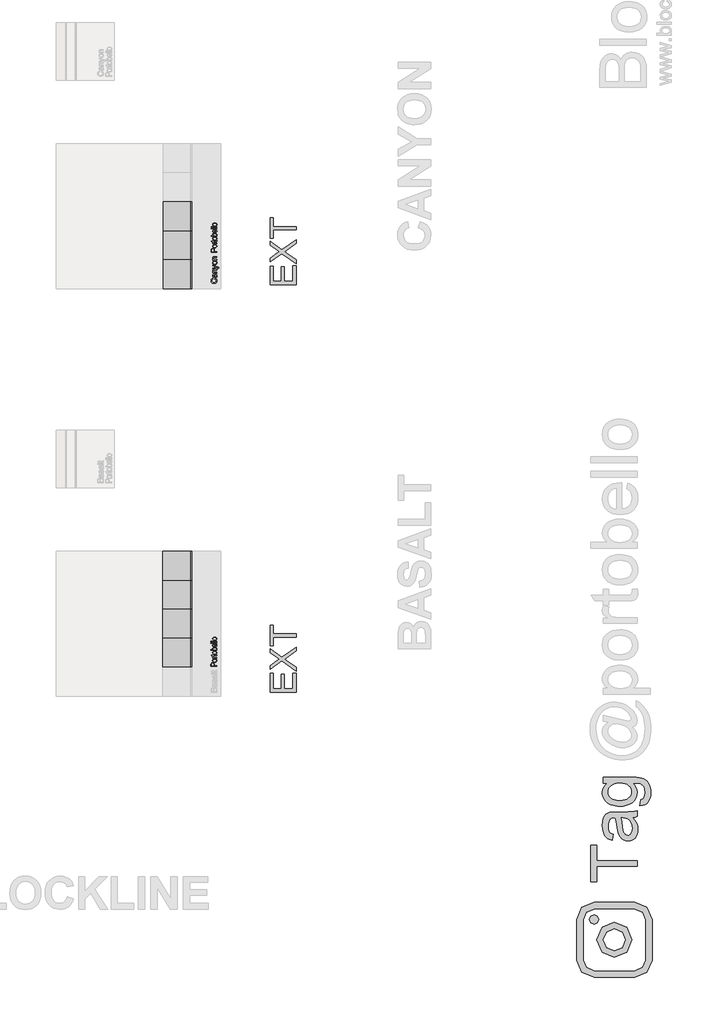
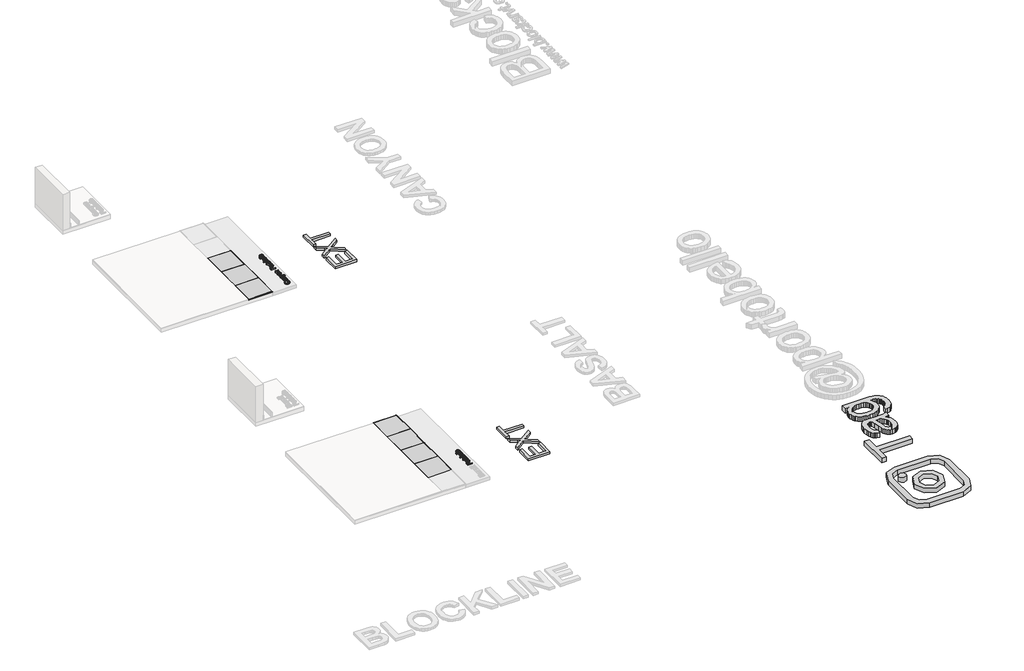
# One storey, part 4 of 6: 15 proxies.
"""IFC4 building model written with IfcOpenShell, lengths in millimetres."""

from ifc_helpers import new_model, si_unit, frame, origin, origin_with_axes, place, context, project, spatial, polyline, outline, extrude, transform, mapped, element, save
from components import generic_models_d67f6705, basalt_b67e728c, basalt_00bb0c9c, canyon_243530b5

model = new_model("IFC4")

# Units and contexts
model_context = context("Model", 3, world=origin())
ifc_project = project(units=[si_unit("LENGTHUNIT", "METRE", prefix="MILLI")], contexts=[model_context])

# Site, building, storey
site = spatial("IfcSite", under=ifc_project)
building = spatial("IfcBuilding", under=site)
storey = spatial("IfcBuildingStorey", under=building, Name="PORTOBELLO - SHOWROOM", Elevation=0.0)

# Proxies
placement = place(None, origin())
generic_models_shape = generic_models_d67f6705(model_context)
element("IfcBuildingElementProxy", 1, Name="Blks_Instagram1 : Único", ObjectType="Blks_Instagram1 : Único", at=placement, inside=storey, context=model_context, shape_type="MappedRepresentation", body=[
    mapped(generic_models_shape, transform((3838.5235049, -12631.2406298, 0.0), x_axis=(-1.0, 0.0, 0.0), y_axis=(0.0, -1.0, 0.0), z_axis=(0.0, 0.0, 1.0))),
])
element("IfcBuildingElementProxy", 2, Name="10mm Arial", ObjectType="10mm Arial", at=placement, inside=storey, context=model_context, shape_type="SweptSolid", body=[
    extrude(outline(polyline([(-3056.0663909, -1228.1118177), (-3052.8290294, -1215.5547789), (-3038.196523, -1221.3489203), (-3027.5064854, -1230.441737), (-3020.9673829, -1242.3856391), (-3018.7876821, -1256.7330369), (-3020.4370197, -1271.2980982), (-3025.3850326, -1282.8649213), (-3033.4600423, -1291.7308774), (-3044.4903708, -1298.1933377), (-3071.3457565, -1303.4540503), (-3085.9935913, -1301.9671939), (-3098.6426005, -1297.5066247), (-3108.8911798, -1290.3053346), (-3116.3377245, -1280.5963156), (-3120.8718701, -1269.0816092), (-3122.3832519, -1256.4632568), (-3120.427346, -1242.6952731), (-3114.5596282, -1231.312391), (-3105.1418491, -1222.6702298), (-3092.5357594, -1217.1244087), (-3089.5436525, -1229.6814475), (-3104.9824336, -1239.9821434), (-3109.8262132, -1256.9537661), (-3104.455136, -1276.5986646), (-3090.0341618, -1287.6964381), (-3071.3702819, -1290.8970115), (-3049.7388206, -1287.1078269), (-3035.9187203, -1275.3110776), (-3031.3447209, -1257.9838357), (-3032.902088, -1247.5022645), (-3037.5741893, -1238.7681328), (-3045.311974, -1232.173848), (-3056.0663909, -1228.1118177)])), frame((0.0, 0.0, -17.1171569), z_axis=(0.0, 0.0, 1.0), x_axis=(1.0, 0.0, 0.0)), (0.0, 0.0, 1.0), 20.0),
    extrude(outline(polyline([(-3029.775091, -1152.769585), (-3021.2647542, -1164.9464791), (-3018.7876821, -1178.3986974), (-3020.2776042, -1188.8925313), (-3024.7473704, -1196.6333816), (-3031.5347932, -1201.4066505), (-3039.977685, -1202.9977401), (-3049.9104989, -1200.5942444), (-3057.120986, -1194.2789368), (-3061.2412643, -1185.4865571), (-3063.1297253, -1174.6217756), (-3067.4462073, -1152.8431614), (-3070.2421105, -1152.769585), (-3079.5127368, -1156.2276758), (-3083.1425058, -1170.1090897), (-3080.7267474, -1182.8132813), (-3072.1550969, -1188.8710715), (-3073.7247267, -1201.4281103), (-3085.9874599, -1195.9957195), (-3093.1734215, -1185.0573615), (-3095.6995446, -1168.490409), (-3093.4677271, -1153.2723571), (-3087.8636581, -1144.6761811), (-3079.3410585, -1140.8256829), (-3068.3536496, -1140.2125463), (-3052.7309275, -1140.2125463), (-3030.9155252, -1139.5748842), (-3020.357312, -1137.0732866), (-3020.357312, -1149.6303254), (-3029.775091, -1152.769585)]), holes=[polyline([(-3054.8891686, -1152.769585), (-3051.0386703, -1173.0276202), (-3049.0030566, -1183.8310882), (-3045.6921187, -1188.7239187), (-3040.8606018, -1190.4407013), (-3034.0670476, -1186.7005677), (-3031.3447209, -1175.7254215), (-3034.3490905, -1163.02123), (-3041.6208913, -1154.8297242), (-3051.3329759, -1152.8431614), (-3054.8891686, -1152.769585)])]), frame((0.0, 0.0, -17.1171569), z_axis=(0.0, 0.0, 1.0), x_axis=(1.0, 0.0, 0.0)), (0.0, 0.0, 1.0), 20.0),
    extrude(outline(polyline([(-3020.357312, -1122.946618), (-3094.1299147, -1122.946618), (-3094.1299147, -1110.3895792), (-3083.8292189, -1110.3895792), (-3092.7319631, -1100.7878591), (-3095.6995446, -1087.6789974), (-3093.3083116, -1075.8209344), (-3087.0297922, -1067.7275305), (-3077.7959541, -1063.9628714), (-3065.6558483, -1063.3006838), (-3020.357312, -1063.3006838), (-3020.357312, -1075.8577226), (-3063.9635911, -1075.8577226), (-3075.0736274, -1077.3047251), (-3080.9474766, -1082.4182848), (-3083.1425058, -1091.0389863), (-3078.2128871, -1104.6628828), (-3071.069845, -1108.9579051), (-3059.4999562, -1110.3895792), (-3020.357312, -1110.3895792), (-3020.357312, -1122.946618)])), frame((0.0, 0.0, -17.1171569), z_axis=(0.0, 0.0, 1.0), x_axis=(1.0, 0.0, 0.0)), (0.0, 0.0, 1.0), 20.0),
    extrude(outline(polyline([(-2992.1039747, -1046.0347555), (-3004.1950296, -1047.6043854), (-3003.0913836, -1041.2277641), (-3004.4770725, -1035.2680758), (-3008.3398334, -1031.6137813), (-3017.5859343, -1028.180216), (-3020.6270921, -1027.1991974), (-3094.1299147, -1053.8829047), (-3094.1299147, -1040.6636784), (-3053.1478605, -1026.4879588), (-3036.7648489, -1021.5583401), (-3051.2593995, -1016.6287214), (-3094.1299147, -1002.0851198), (-3094.1299147, -988.9639953), (-3018.5914784, -1014.6421586), (-3002.2084669, -1021.3130854), (-2993.3547735, -1028.5971489), (-2990.5343449, -1038.3582845), (-2992.1039747, -1046.0347555)])), frame((0.0, 0.0, -17.1171569), z_axis=(0.0, 0.0, 1.0), x_axis=(1.0, 0.0, 0.0)), (0.0, 0.0, 1.0), 20.0),
    extrude(outline(polyline([(-3057.2436133, -981.6799318), (-3075.0307078, -978.9637364), (-3087.5325643, -970.8151502), (-3093.6577995, -960.7474463), (-3095.6995446, -948.6931796), (-3093.2132754, -935.5015444), (-3085.754468, -924.9647909), (-3073.9117334, -918.0578064), (-3058.2736829, -915.7554783), (-3035.9309831, -919.8267057), (-3023.2881052, -931.6847687), (-3018.7876821, -948.6931796), (-3021.2647542, -962.0442303), (-3028.6959705, -972.5687211), (-3040.7870254, -979.4021291), (-3057.2436133, -981.6799318)]), holes=[polyline([(-3057.2681388, -969.1228931), (-3045.9036508, -967.6697592), (-3037.8071813, -963.3103575), (-3032.960336, -956.7497953), (-3031.3447209, -948.6931796), (-3032.969533, -940.6733521), (-3037.8439695, -934.1250526), (-3046.0477379, -929.7656509), (-3057.6605463, -928.3125171), (-3068.6939404, -929.774848), (-3076.6800454, -934.1618408), (-3081.5268907, -940.7193373), (-3083.1425058, -948.6931796), (-3081.5330221, -956.7497953), (-3076.7045709, -963.3103575), (-3068.6264954, -967.6697592), (-3057.2681388, -969.1228931)])]), frame((0.0, 0.0, -17.1171569), z_axis=(0.0, 0.0, 1.0), x_axis=(1.0, 0.0, 0.0)), (0.0, 0.0, 1.0), 20.0),
    extrude(outline(polyline([(-3020.357312, -901.6288097), (-3094.1299147, -901.6288097), (-3094.1299147, -889.0717709), (-3083.8292189, -889.0717709), (-3092.7319631, -879.4700508), (-3095.6995446, -866.3611891), (-3093.3083116, -854.5031261), (-3087.0297922, -846.4097222), (-3077.7959541, -842.6450631), (-3065.6558483, -841.9828755), (-3020.357312, -841.9828755), (-3020.357312, -854.5399143), (-3063.9635911, -854.5399143), (-3075.0736274, -855.9869168), (-3080.9474766, -861.1004765), (-3083.1425058, -869.721178), (-3078.2128871, -883.3450745), (-3071.069845, -887.6400968), (-3059.4999562, -889.0717709), (-3020.357312, -889.0717709), (-3020.357312, -901.6288097)])), frame((0.0, 0.0, -17.1171569), z_axis=(0.0, 0.0, 1.0), x_axis=(1.0, 0.0, 0.0)), (0.0, 0.0, 1.0), 20.0),
])
element("IfcBuildingElementProxy", 3, Name="10mm Arial Narrow", ObjectType="10mm Arial Narrow", at=placement, inside=storey, context=model_context, shape_type="SweptSolid", body=[
    extrude(outline(polyline([(-3022.357312, -7911.6199743), (-3123.0759157, -7911.6199743), (-3123.0759157, -7880.3230896), (-3121.197595, -7864.0273881), (-3111.7171518, -7852.554402), (-3094.698043, -7848.2647236), (-3082.6222174, -7850.051032), (-3072.9958237, -7855.4099572), (-3066.6945653, -7865.153746), (-3064.5941458, -7880.0946452), (-3064.5941458, -7901.8730127), (-3022.357312, -7901.8730127), (-3022.357312, -7911.6199743)]), holes=[polyline([(-3075.965601, -7901.8730127), (-3075.965601, -7878.9016577), (-3080.4964153, -7863.0374623), (-3094.165006, -7858.0116852), (-3104.3307824, -7860.4864997), (-3110.1307323, -7866.4641285), (-3111.7044604, -7879.1301021), (-3111.7044604, -7901.8730127), (-3075.965601, -7901.8730127)])]), frame((0.0, 0.0, -17.1171569), z_axis=(0.0, 0.0, 1.0), x_axis=(1.0, 0.0, 0.0)), (0.0, 0.0, 1.0), 20.0),
    extrude(outline(polyline([(-3058.9084182, -7840.1422555), (-3075.4991937, -7838.1877867), (-3087.4512785, -7832.32438), (-3094.6758331, -7823.4658133), (-3097.084018, -7812.5258642), (-3094.6758331, -7801.7128286), (-3087.4512785, -7792.8288792), (-3075.689564, -7786.8893244), (-3059.6698995, -7784.9094728), (-3042.5080129, -7786.8544232), (-3030.3655578, -7792.6892742), (-3023.1410032, -7801.5383224), (-3020.7328183, -7812.5258642), (-3023.1473489, -7823.3864923), (-3030.3909405, -7832.2609233), (-3042.349371, -7838.1719225), (-3058.9084182, -7840.1422555)]), holes=[polyline([(-3058.9338009, -7830.3952939), (-3046.3820495, -7829.091257), (-3037.5107914, -7825.1791464), (-3032.2375328, -7819.3379497), (-3030.47978, -7812.2466543), (-3032.253397, -7805.5265812), (-3037.5742482, -7799.8345079), (-3046.4613704, -7795.9509528), (-3058.9338009, -7794.6564345), (-3071.4474782, -7795.9604713), (-3080.3060449, -7799.8725819), (-3085.5793035, -7805.7137787), (-3087.3370563, -7812.805074), (-3085.5697849, -7819.5727398), (-3080.2679708, -7825.2552946), (-3071.3998856, -7829.110294), (-3058.9338009, -7830.3952939)])]), frame((0.0, 0.0, -17.1171569), z_axis=(0.0, 0.0, 1.0), x_axis=(1.0, 0.0, 0.0)), (0.0, 0.0, 1.0), 20.0),
    extrude(outline(polyline([(-3030.47978, -7713.431754), (-3020.7328183, -7711.8072604), (-3020.7328183, -7719.1682471), (-3022.8522748, -7727.4430114), (-3028.6522247, -7731.7580726), (-3043.2980499, -7732.9256773), (-3085.7125627, -7732.9256773), (-3085.7125627, -7741.0481454), (-3088.9615499, -7741.0481454), (-3084.0880691, -7742.672639), (-3085.7125627, -7750.2366874), (-3083.3900445, -7756.315847), (-3076.9047614, -7760.1867107), (-3061.4974548, -7762.1665623), (-3022.357312, -7762.1665623), (-3022.357312, -7771.913524), (-3095.4595244, -7771.913524), (-3095.4595244, -7762.1665623), (-3085.7633281, -7762.1665623), (-3094.8503392, -7755.922415), (-3097.084018, -7749.5259714), (-3095.4595244, -7741.0481454), (-3095.4595244, -7732.9256773), (-3111.7044604, -7732.9256773), (-3119.8269285, -7723.1787157), (-3095.4595244, -7723.1787157), (-3095.4595244, -7713.431754), (-3085.7125627, -7713.431754), (-3085.7125627, -7723.1787157), (-3041.0643712, -7723.1787157), (-3033.0688167, -7722.3157035), (-3030.47978, -7717.6960498), (-3030.47978, -7713.431754)])), frame((0.0, 0.0, -17.1171569), z_axis=(0.0, 0.0, 1.0), x_axis=(1.0, 0.0, 0.0)), (0.0, 0.0, 1.0), 20.0),
    extrude(outline(polyline([(-3058.9084182, -7706.9337796), (-3075.4991937, -7704.9793107), (-3087.4512785, -7699.1159041), (-3094.6758331, -7690.2573374), (-3097.084018, -7679.3173882), (-3094.6758331, -7668.5043527), (-3087.4512785, -7659.6204032), (-3075.689564, -7653.6808485), (-3059.6698995, -7651.7009969), (-3042.5080129, -7653.6459472), (-3030.3655578, -7659.4807983), (-3023.1410032, -7668.3298465), (-3020.7328183, -7679.3173882), (-3023.1473489, -7690.1780164), (-3030.3909405, -7699.0524473), (-3042.349371, -7704.9634465), (-3058.9084182, -7706.9337796)]), holes=[polyline([(-3058.9338009, -7697.1868179), (-3046.3820495, -7695.8827811), (-3037.5107914, -7691.9706705), (-3032.2375328, -7686.1294737), (-3030.47978, -7679.0381784), (-3032.253397, -7672.3181052), (-3037.5742482, -7666.6260319), (-3046.4613704, -7662.7424769), (-3058.9338009, -7661.4479585), (-3071.4474782, -7662.7519954), (-3080.3060449, -7666.664106), (-3085.5793035, -7672.5053027), (-3087.3370563, -7679.5965981), (-3085.5697849, -7686.3642638), (-3080.2679708, -7692.0468186), (-3071.3998856, -7695.9018181), (-3058.9338009, -7697.1868179)])]), frame((0.0, 0.0, -17.1171569), z_axis=(0.0, 0.0, 1.0), x_axis=(1.0, 0.0, 0.0)), (0.0, 0.0, 1.0), 20.0),
    extrude(outline(polyline([(-3022.357312, -7628.9580864), (-3022.357312, -7638.705048), (-3123.0759157, -7638.705048), (-3123.0759157, -7628.9580864), (-3087.6670316, -7628.9580864), (-3094.7488084, -7621.5590256), (-3097.084018, -7612.3577923), (-3092.883179, -7599.4760656), (-3080.1537486, -7590.1986842), (-3059.4668378, -7586.7212525), (-3043.0124944, -7588.6535115), (-3030.8097553, -7594.4502885), (-3023.2520526, -7602.8234109), (-3020.7328183, -7612.4847059), (-3023.3472377, -7621.8255441), (-3031.1143478, -7628.9580864), (-3022.357312, -7628.9580864)]), holes=[polyline([(-3059.4668378, -7628.9580864), (-3042.2192846, -7626.8767039), (-3033.4876314, -7620.9879146), (-3030.47978, -7612.5354713), (-3032.2692612, -7606.5927437), (-3037.637705, -7601.3543864), (-3059.0607144, -7596.4682142), (-3080.4964153, -7601.1767074), (-3085.626896, -7606.4214104), (-3087.3370563, -7612.738533), (-3085.5475751, -7618.7161618), (-3080.1791313, -7624.0084574), (-3059.4668378, -7628.9580864)])]), frame((0.0, 0.0, -17.1171569), z_axis=(0.0, 0.0, 1.0), x_axis=(1.0, 0.0, 0.0)), (0.0, 0.0, 1.0), 20.0),
    extrude(outline(polyline([(-3045.1002225, -7534.737457), (-3043.4757289, -7524.9904954), (-3033.5891623, -7528.6900258), (-3026.4693114, -7534.5090126), (-3022.1669416, -7542.2126659), (-3020.7328183, -7551.5661955), (-3023.1473489, -7563.1597495), (-3030.3909405, -7572.3038718), (-3042.1970747, -7578.2434265), (-3058.299233, -7580.2232781), (-3074.9661567, -7578.233908), (-3087.146686, -7572.2657977), (-3094.599685, -7563.2517619), (-3097.084018, -7552.1246152), (-3094.6853516, -7541.441666), (-3087.4893526, -7532.6941487), (-3075.749848, -7526.8592976), (-3059.720665, -7524.9143473), (-3056.4716777, -7524.9904954), (-3056.4716777, -7570.4763164), (-3037.0285199, -7564.4733049), (-3032.116965, -7558.5432687), (-3030.47978, -7551.439282), (-3034.1348906, -7541.2608142), (-3045.1002225, -7534.737457)]), holes=[polyline([(-3066.2186394, -7569.8163659), (-3066.2186394, -7534.737457), (-3080.4837239, -7539.0017528), (-3085.6237232, -7544.8270853), (-3087.3370563, -7552.0484671), (-3081.625946, -7564.2575518), (-3066.2186394, -7569.8163659)])]), frame((0.0, 0.0, -17.1171569), z_axis=(0.0, 0.0, 1.0), x_axis=(1.0, 0.0, 0.0)), (0.0, 0.0, 1.0), 20.0),
    extrude(outline(polyline([(-3022.357312, -7511.9945465), (-3123.0759157, -7511.9945465), (-3123.0759157, -7502.2475849), (-3022.357312, -7502.2475849), (-3022.357312, -7511.9945465)])), frame((0.0, 0.0, -17.1171569), z_axis=(0.0, 0.0, 1.0), x_axis=(1.0, 0.0, 0.0)), (0.0, 0.0, 1.0), 20.0),
    extrude(outline(polyline([(-3022.357312, -7486.0026488), (-3123.0759157, -7486.0026488), (-3123.0759157, -7476.2556871), (-3022.357312, -7476.2556871), (-3022.357312, -7486.0026488)])), frame((0.0, 0.0, -17.1171569), z_axis=(0.0, 0.0, 1.0), x_axis=(1.0, 0.0, 0.0)), (0.0, 0.0, 1.0), 20.0),
    extrude(outline(polyline([(-3058.9084182, -7464.8842319), (-3075.4991937, -7462.929763), (-3087.4512785, -7457.0663564), (-3094.6758331, -7448.2077897), (-3097.084018, -7437.2678405), (-3094.6758331, -7426.4548049), (-3087.4512785, -7417.5708555), (-3075.689564, -7411.6313007), (-3059.6698995, -7409.6514492), (-3042.5080129, -7411.5963995), (-3030.3655578, -7417.4312506), (-3023.1410032, -7426.2802988), (-3020.7328183, -7437.2678405), (-3023.1473489, -7448.1284687), (-3030.3909405, -7457.0028996), (-3042.349371, -7462.9138988), (-3058.9084182, -7464.8842319)]), holes=[polyline([(-3058.9338009, -7455.1372702), (-3046.3820495, -7453.8332334), (-3037.5107914, -7449.9211228), (-3032.2375328, -7444.079926), (-3030.47978, -7436.9886307), (-3032.253397, -7430.2685575), (-3037.5742482, -7424.5764842), (-3046.4613704, -7420.6929292), (-3058.9338009, -7419.3984108), (-3071.4474782, -7420.7024477), (-3080.3060449, -7424.6145583), (-3085.5793035, -7430.455755), (-3087.3370563, -7437.5470504), (-3085.5697849, -7444.3147161), (-3080.2679708, -7449.9972709), (-3071.3998856, -7453.8522704), (-3058.9338009, -7455.1372702)])]), frame((0.0, 0.0, -17.1171569), z_axis=(0.0, 0.0, 1.0), x_axis=(1.0, 0.0, 0.0)), (0.0, 0.0, 1.0), 20.0),
])
element("IfcBuildingElementProxy", 4, Name="10mm Arial Narrow", ObjectType="10mm Arial Narrow", at=placement, inside=storey, context=model_context, shape_type="SweptSolid", body=[
    extrude(outline(polyline([(-3020.357312, -763.026365), (-3121.0759157, -763.026365), (-3121.0759157, -731.7294803), (-3119.197595, -715.4337788), (-3109.7171518, -703.9607927), (-3092.698043, -699.6711143), (-3080.6222174, -701.4574227), (-3070.9958237, -706.8163479), (-3064.6945653, -716.5601367), (-3062.5941458, -731.5010359), (-3062.5941458, -753.2794033), (-3020.357312, -753.2794033), (-3020.357312, -763.026365)]), holes=[polyline([(-3073.965601, -753.2794033), (-3073.965601, -730.3080484), (-3078.4964153, -714.443853), (-3092.165006, -709.4180759), (-3102.3307824, -711.8928904), (-3108.1307323, -717.8705192), (-3109.7044604, -730.5364928), (-3109.7044604, -753.2794033), (-3073.965601, -753.2794033)])]), frame((0.0, 0.0, -17.1171569), z_axis=(0.0, 0.0, 1.0), x_axis=(1.0, 0.0, 0.0)), (0.0, 0.0, 1.0), 20.0),
    extrude(outline(polyline([(-3056.9084182, -691.5486462), (-3073.4991937, -689.5941773), (-3085.4512785, -683.7307707), (-3092.6758331, -674.872204), (-3095.084018, -663.9322549), (-3092.6758331, -653.1192193), (-3085.4512785, -644.2352699), (-3073.689564, -638.2957151), (-3057.6698995, -636.3158635), (-3040.5080129, -638.2608139), (-3028.3655578, -644.0956649), (-3021.1410032, -652.9447131), (-3018.7328183, -663.9322549), (-3021.1473489, -674.792883), (-3028.3909405, -683.6673139), (-3040.349371, -689.5783131), (-3056.9084182, -691.5486462)]), holes=[polyline([(-3056.9338009, -681.8016846), (-3044.3820495, -680.4976477), (-3035.5107914, -676.5855371), (-3030.2375328, -670.7443404), (-3028.47978, -663.653045), (-3030.253397, -656.9329718), (-3035.5742482, -651.2408985), (-3044.4613704, -647.3573435), (-3056.9338009, -646.0628252), (-3069.4474782, -647.366862), (-3078.3060449, -651.2789726), (-3083.5793035, -657.1201694), (-3085.3370563, -664.2114647), (-3083.5697849, -670.9791305), (-3078.2679708, -676.6616852), (-3069.3998856, -680.5166847), (-3056.9338009, -681.8016846)])]), frame((0.0, 0.0, -17.1171569), z_axis=(0.0, 0.0, 1.0), x_axis=(1.0, 0.0, 0.0)), (0.0, 0.0, 1.0), 20.0),
    extrude(outline(polyline([(-3028.47978, -564.8381447), (-3018.7328183, -563.2136511), (-3018.7328183, -570.5746378), (-3020.8522748, -578.8494021), (-3026.6522247, -583.1644632), (-3041.2980499, -584.332068), (-3083.7125627, -584.332068), (-3083.7125627, -592.4545361), (-3086.9615499, -592.4545361), (-3082.0880691, -594.0790297), (-3083.7125627, -601.643078), (-3081.3900445, -607.7222377), (-3074.9047614, -611.5931014), (-3059.4974548, -613.572953), (-3020.357312, -613.572953), (-3020.357312, -623.3199146), (-3093.4595244, -623.3199146), (-3093.4595244, -613.572953), (-3083.7633281, -613.572953), (-3092.8503392, -607.3288057), (-3095.084018, -600.9323621), (-3093.4595244, -592.4545361), (-3093.4595244, -584.332068), (-3109.7044604, -584.332068), (-3117.8269285, -574.5851064), (-3093.4595244, -574.5851064), (-3093.4595244, -564.8381447), (-3083.7125627, -564.8381447), (-3083.7125627, -574.5851064), (-3039.0643712, -574.5851064), (-3031.0688167, -573.7220941), (-3028.47978, -569.1024404), (-3028.47978, -564.8381447)])), frame((0.0, 0.0, -17.1171569), z_axis=(0.0, 0.0, 1.0), x_axis=(1.0, 0.0, 0.0)), (0.0, 0.0, 1.0), 20.0),
    extrude(outline(polyline([(-3056.9084182, -558.3401703), (-3073.4991937, -556.3857014), (-3085.4512785, -550.5222948), (-3092.6758331, -541.6637281), (-3095.084018, -530.7237789), (-3092.6758331, -519.9107433), (-3085.4512785, -511.0267939), (-3073.689564, -505.0872392), (-3057.6698995, -503.1073876), (-3040.5080129, -505.0523379), (-3028.3655578, -510.887189), (-3021.1410032, -519.7362372), (-3018.7328183, -530.7237789), (-3021.1473489, -541.5844071), (-3028.3909405, -550.458838), (-3040.349371, -556.3698372), (-3056.9084182, -558.3401703)]), holes=[polyline([(-3056.9338009, -548.5932086), (-3044.3820495, -547.2891718), (-3035.5107914, -543.3770612), (-3030.2375328, -537.5358644), (-3028.47978, -530.4445691), (-3030.253397, -523.7244959), (-3035.5742482, -518.0324226), (-3044.4613704, -514.1488676), (-3056.9338009, -512.8543492), (-3069.4474782, -514.1583861), (-3078.3060449, -518.0704967), (-3083.5793035, -523.9116934), (-3085.3370563, -531.0029888), (-3083.5697849, -537.7706545), (-3078.2679708, -543.4532093), (-3069.3998856, -547.3082088), (-3056.9338009, -548.5932086)])]), frame((0.0, 0.0, -17.1171569), z_axis=(0.0, 0.0, 1.0), x_axis=(1.0, 0.0, 0.0)), (0.0, 0.0, 1.0), 20.0),
    extrude(outline(polyline([(-3020.357312, -480.3644771), (-3020.357312, -490.1114387), (-3121.0759157, -490.1114387), (-3121.0759157, -480.3644771), (-3085.6670316, -480.3644771), (-3092.7488084, -472.9654163), (-3095.084018, -463.764183), (-3090.883179, -450.8824563), (-3078.1537486, -441.6050749), (-3057.4668378, -438.1276432), (-3041.0124944, -440.0599022), (-3028.8097553, -445.8566792), (-3021.2520526, -454.2298015), (-3018.7328183, -463.8910965), (-3021.3472377, -473.2319348), (-3029.1143478, -480.3644771), (-3020.357312, -480.3644771)]), holes=[polyline([(-3057.4668378, -480.3644771), (-3040.2192846, -478.2830946), (-3031.4876314, -472.3943053), (-3028.47978, -463.941862), (-3030.2692612, -457.9991344), (-3035.637705, -452.7607771), (-3057.0607144, -447.8746049), (-3078.4964153, -452.5830981), (-3083.626896, -457.8278011), (-3085.3370563, -464.1449237), (-3083.5475751, -470.1225525), (-3078.1791313, -475.4148481), (-3057.4668378, -480.3644771)])]), frame((0.0, 0.0, -17.1171569), z_axis=(0.0, 0.0, 1.0), x_axis=(1.0, 0.0, 0.0)), (0.0, 0.0, 1.0), 20.0),
    extrude(outline(polyline([(-3043.1002225, -386.1438477), (-3041.4757289, -376.3968861), (-3031.5891623, -380.0964164), (-3024.4693114, -385.9154033), (-3020.1669416, -393.6190566), (-3018.7328183, -402.9725862), (-3021.1473489, -414.5661402), (-3028.3909405, -423.7102624), (-3040.1970747, -429.6498172), (-3056.299233, -431.6296688), (-3072.9661567, -429.6402987), (-3085.146686, -423.6721884), (-3092.599685, -414.6581525), (-3095.084018, -403.5310059), (-3092.6853516, -392.8480567), (-3085.4893526, -384.1005394), (-3073.749848, -378.2656883), (-3057.720665, -376.3207379), (-3054.4716777, -376.3968861), (-3054.4716777, -421.8827071), (-3035.0285199, -415.8796956), (-3030.116965, -409.9496594), (-3028.47978, -402.8456727), (-3032.1348906, -392.6672049), (-3043.1002225, -386.1438477)]), holes=[polyline([(-3064.2186394, -421.2227566), (-3064.2186394, -386.1438477), (-3078.4837239, -390.4081435), (-3083.6237232, -396.233476), (-3085.3370563, -403.4548578), (-3079.625946, -415.6639425), (-3064.2186394, -421.2227566)])]), frame((0.0, 0.0, -17.1171569), z_axis=(0.0, 0.0, 1.0), x_axis=(1.0, 0.0, 0.0)), (0.0, 0.0, 1.0), 20.0),
    extrude(outline(polyline([(-3020.357312, -363.4009372), (-3121.0759157, -363.4009372), (-3121.0759157, -353.6539756), (-3020.357312, -353.6539756), (-3020.357312, -363.4009372)])), frame((0.0, 0.0, -17.1171569), z_axis=(0.0, 0.0, 1.0), x_axis=(1.0, 0.0, 0.0)), (0.0, 0.0, 1.0), 20.0),
    extrude(outline(polyline([(-3020.357312, -337.4090395), (-3121.0759157, -337.4090395), (-3121.0759157, -327.6620778), (-3020.357312, -327.6620778), (-3020.357312, -337.4090395)])), frame((0.0, 0.0, -17.1171569), z_axis=(0.0, 0.0, 1.0), x_axis=(1.0, 0.0, 0.0)), (0.0, 0.0, 1.0), 20.0),
    extrude(outline(polyline([(-3056.9084182, -316.2906226), (-3073.4991937, -314.3361537), (-3085.4512785, -308.4727471), (-3092.6758331, -299.6141803), (-3095.084018, -288.6742312), (-3092.6758331, -277.8611956), (-3085.4512785, -268.9772462), (-3073.689564, -263.0376914), (-3057.6698995, -261.0578398), (-3040.5080129, -263.0027902), (-3028.3655578, -268.8376413), (-3021.1410032, -277.6866895), (-3018.7328183, -288.6742312), (-3021.1473489, -299.5348594), (-3028.3909405, -308.4092903), (-3040.349371, -314.3202895), (-3056.9084182, -316.2906226)]), holes=[polyline([(-3056.9338009, -306.5436609), (-3044.3820495, -305.239624), (-3035.5107914, -301.3275134), (-3030.2375328, -295.4863167), (-3028.47978, -288.3950214), (-3030.253397, -281.6749482), (-3035.5742482, -275.9828749), (-3044.4613704, -272.0993198), (-3056.9338009, -270.8048015), (-3069.4474782, -272.1088384), (-3078.3060449, -276.0209489), (-3083.5793035, -281.8621457), (-3085.3370563, -288.953441), (-3083.5697849, -295.7211068), (-3078.2679708, -301.4036616), (-3069.3998856, -305.2586611), (-3056.9338009, -306.5436609)])]), frame((0.0, 0.0, -17.1171569), z_axis=(0.0, 0.0, 1.0), x_axis=(1.0, 0.0, 0.0)), (0.0, 0.0, 1.0), 20.0),
])
element("IfcBuildingElementProxy", 5, Name="450mm Arial", ObjectType="450mm Arial", at=placement, inside=storey, context=model_context, shape_type="SweptSolid", body=[
    extrude(outline(polyline([(-1653.3270329, -8358.4815435), (-2102.9831757, -8358.4815435), (-2102.9831757, -8035.2911909), (-2046.7761579, -8035.2911909), (-2046.7761579, -8302.2745257), (-1913.2844905, -8302.2745257), (-1913.2844905, -8049.3429453), (-1857.0774726, -8049.3429453), (-1857.0774726, -8302.2745257), (-1709.5340508, -8302.2745257), (-1709.5340508, -8028.2653136), (-1653.3270329, -8028.2653136), (-1653.3270329, -8358.4815435)])), origin_with_axes(), (0.0, 0.0, 1.0), 50.0),
    extrude(outline(polyline([(-1653.3270329, -7993.1359275), (-1898.3545014, -7819.904142), (-2102.9831757, -7965.0324186), (-2102.9831757, -7897.7376882), (-1987.7148774, -7815.952086), (-1942.8151307, -7788.3974738), (-1988.7028914, -7756.1223502), (-2102.9831757, -7675.2149828), (-2102.9831757, -7606.7126797), (-1897.586046, -7751.9507356), (-1653.3270329, -7578.6091708), (-1653.3270329, -7646.0136805), (-1816.1297819, -7761.6113168), (-1849.8320367, -7785.6529905), (-1812.8364019, -7811.8902508), (-1653.3270329, -7924.6336245), (-1653.3270329, -7993.1359275)])), origin_with_axes(), (0.0, 0.0, 1.0), 50.0),
    extrude(outline(polyline([(-1653.3270329, -7409.9881173), (-2046.7761579, -7409.9881173), (-2046.7761579, -7557.5315391), (-2102.9831757, -7557.5315391), (-2102.9831757, -7206.2376775), (-2046.7761579, -7206.2376775), (-2046.7761579, -7353.7810994), (-1653.3270329, -7353.7810994), (-1653.3270329, -7409.9881173)])), origin_with_axes(), (0.0, 0.0, 1.0), 50.0),
])
element("IfcBuildingElementProxy", 6, Name="450mm Arial", ObjectType="450mm Arial", at=placement, inside=storey, context=model_context, shape_type="SweptSolid", body=[
    extrude(outline(polyline([(-1653.3270329, -1326.4815435), (-2102.9831757, -1326.4815435), (-2102.9831757, -1003.2911909), (-2046.7761579, -1003.2911909), (-2046.7761579, -1270.2745257), (-1913.2844905, -1270.2745257), (-1913.2844905, -1017.3429453), (-1857.0774726, -1017.3429453), (-1857.0774726, -1270.2745257), (-1709.5340508, -1270.2745257), (-1709.5340508, -996.2653136), (-1653.3270329, -996.2653136), (-1653.3270329, -1326.4815435)])), origin_with_axes(), (0.0, 0.0, 1.0), 50.0),
    extrude(outline(polyline([(-1653.3270329, -961.1359275), (-1898.3545014, -787.904142), (-2102.9831757, -933.0324186), (-2102.9831757, -865.7376882), (-1987.7148774, -783.952086), (-1942.8151307, -756.3974738), (-1988.7028914, -724.1223502), (-2102.9831757, -643.2149828), (-2102.9831757, -574.7126797), (-1897.586046, -719.9507356), (-1653.3270329, -546.6091708), (-1653.3270329, -614.0136805), (-1816.1297819, -729.6113168), (-1849.8320367, -753.6529905), (-1812.8364019, -779.8902508), (-1653.3270329, -892.6336245), (-1653.3270329, -961.1359275)])), origin_with_axes(), (0.0, 0.0, 1.0), 50.0),
    extrude(outline(polyline([(-1653.3270329, -377.9881173), (-2046.7761579, -377.9881173), (-2046.7761579, -525.5315391), (-2102.9831757, -525.5315391), (-2102.9831757, -174.2376775), (-2046.7761579, -174.2376775), (-2046.7761579, -321.7810994), (-1653.3270329, -321.7810994), (-1653.3270329, -377.9881173)])), origin_with_axes(), (0.0, 0.0, 1.0), 50.0),
])
element("IfcBuildingElementProxy", 7, Name="80mm Arial", ObjectType="80mm Arial", at=placement, inside=storey, context=model_context, shape_type="SweptSolid", body=[
    extrude(outline(polyline([(4230.2364896, -11363.1133966), (3530.7713786, -11363.1133966), (3530.7713786, -11625.4128133), (3430.8477913, -11625.4128133), (3430.8477913, -11000.8903927), (3530.7713786, -11000.8903927), (3530.7713786, -11263.1898093), (4230.2364896, -11263.1898093), (4230.2364896, -11363.1133966)])), origin_with_axes(), (0.0, 0.0, 1.0), 100.0),
    extrude(outline(polyline([(4155.2937991, -10526.2533531), (4196.2292922, -10573.9951647), (4211.3910377, -10598.3966706), (4223.0154491, -10623.1519099), (4237.7990658, -10674.8457774), (4242.726938, -10730.198956), (4239.7628961, -10774.6900796), (4230.8707702, -10813.7044344), (4216.0505604, -10847.2420202), (4195.3022667, -10875.3028372), (4169.9432411, -10897.4599656), (4141.2908355, -10913.286486), (4109.3450499, -10922.7823982), (4074.1058845, -10925.9477022), (4032.6824833, -10921.1662025), (3995.0647656, -10906.8217031), (3962.8628283, -10884.6950689), (3937.6867682, -10856.5671646), (3918.6583507, -10823.511388), (3904.8993411, -10786.6011371), (3889.8717704, -10700.1438145), (3874.0635466, -10597.9758498), (3855.5230373, -10526.8388428), (3833.274426, -10526.2533531), (3809.0497868, -10527.9732293), (3788.6796219, -10533.1328579), (3772.1639313, -10541.7322388), (3759.5027151, -10553.7713722), (3746.8658942, -10574.5806544), (3737.8395936, -10599.9274824), (3732.4238133, -10629.811856), (3730.6185531, -10664.2337754), (3735.4244483, -10723.7585686), (3741.4318173, -10746.7878328), (3749.8421339, -10765.3283422), (3761.3140741, -10780.5632739), (3776.5063138, -10793.6758052), (3795.4188531, -10804.6659361), (3818.051692, -10813.5336665), (3805.5612436, -10913.4572538), (3750.9155318, -10896.1121194), (3727.9838492, -10884.237655), (3707.9796154, -10870.2285925), (3690.5003062, -10853.4811456), (3675.1433975, -10833.3915279), (3661.9088892, -10809.9597394), (3650.7967813, -10783.1857802), (3635.7204197, -10721.7825406), (3630.6949658, -10651.3530004), (3635.1349299, -10583.8021183), (3648.4548222, -10530.2541998), (3668.4834514, -10489.8798011), (3693.0496263, -10461.8494784), (3723.4219081, -10443.2601783), (3760.8688579, -10431.2088472), (3795.4127543, -10427.5495361), (3848.3019968, -10426.3297658), (3972.6209911, -10426.3297658), (4080.912203, -10425.0612046), (4146.2187077, -10421.2555211), (4189.1302287, -10413.7417357), (4230.2364896, -10401.3488689), (4230.2364896, -10501.2724562), (4195.49743, -10517.2758433), (4155.2937991, -10526.2533531)]), holes=[polyline([(3955.4466245, -10526.2533531), (3972.0842922, -10593.3895133), (3986.0872558, -10687.4582029), (3993.7474136, -10739.2984429), (4002.2858061, -10773.4276173), (4013.3613209, -10795.7982056), (4028.6328457, -10812.362687), (4046.929401, -10822.608758), (4067.0800072, -10826.0241149), (4082.6076838, -10824.1639652), (4096.793613, -10818.5835158), (4109.6377948, -10809.2827669), (4121.1402293, -10796.2617183), (4130.6178449, -10779.6423473), (4137.3875704, -10759.5466307), (4142.8033507, -10708.9261611), (4136.826476, -10655.2562656), (4129.3553826, -10630.7632769), (4118.8958518, -10607.8315943), (4092.475626, -10569.3844327), (4061.0299463, -10542.6470666), (4028.6328457, -10530.7908988), (3983.7452967, -10526.8388428), (3955.4466245, -10526.2533531)])]), origin_with_axes(), (0.0, 0.0, 1.0), 100.0),
    extrude(outline(polyline([(4280.1982832, -10313.9157301), (4292.6887317, -10213.9921428), (4309.5215625, -10209.7717374), (4323.9148527, -10202.9654188), (4335.8686021, -10193.5731871), (4345.3828109, -10181.5950422), (4355.1165783, -10162.2128913), (4362.0692693, -10139.5861513), (4367.6314221, -10084.5989038), (4366.0579184, -10053.3971781), (4361.3374071, -10025.9523452), (4353.4698883, -10002.264405), (4342.455362, -9982.3333574), (4328.5987708, -9965.7444806), (4312.2050573, -9952.0830526), (4293.2742214, -9941.3490735), (4271.8062632, -9933.5425433), (4228.821556, -9928.1267629), (4155.2937991, -9926.7118293), (4188.0812262, -9959.9627691), (4211.500817, -9997.0681832), (4225.5525714, -10038.0280717), (4230.2364896, -10082.8424345), (4224.7841161, -10137.6284198), (4208.4269957, -10185.8642384), (4196.1591554, -10207.5258352), (4181.1651283, -10227.5498902), (4142.998514, -10262.6853753), (4097.2083349, -10290.5632267), (4047.0757734, -10310.4759777), (3992.6008295, -10322.4236283), (3933.7835031, -10326.4061785), (3892.6345502, -10324.6192149), (3853.107892, -10319.2583242), (3815.2035282, -10310.3235064), (3778.9214591, -10297.8147614), (3745.4692572, -10281.9211537), (3716.0544951, -10262.8317477), (3690.6771729, -10240.5465434), (3669.3372906, -10215.0655407), (3652.4312735, -10186.7973628), (3640.355547, -10156.1506326), (3633.1101111, -10123.1253503), (3630.6949658, -10087.7215159), (3636.159537, -10040.9921136), (3652.5532506, -9998.5806985), (3679.8761065, -9960.4872704), (3718.1281047, -9926.7118293), (3643.1854143, -9926.7118293), (3643.1854143, -9826.788242), (4150.0243912, -9826.788242), (4213.5317346, -9828.4959205), (4267.0491588, -9833.618956), (4310.5766639, -9842.1573485), (4344.1142497, -9854.1110979), (4371.1626573, -9869.7668504), (4395.2226275, -9889.4112519), (4416.2941603, -9913.0443025), (4434.3772558, -9940.6660021), (4448.892523, -9971.9958036), (4459.260571, -10006.7531598), (4465.4813998, -10044.9380707), (4467.5550094, -10086.5505363), (4464.6336594, -10135.5060194), (4455.8696094, -10179.5214326), (4441.2628595, -10218.5967759), (4420.8134095, -10252.7320492), (4394.4968641, -10280.304958), (4362.288828, -10299.6932078), (4324.189301, -10310.8967984), (4280.1982832, -10313.9157301)]), holes=[polyline([(3926.9527891, -10226.4825912), (3976.3595872, -10223.817393), (4018.6063334, -10215.8217983), (4053.6930276, -10202.4958072), (4081.6196698, -10183.8394197), (4102.922959, -10161.1577899), (4118.1395942, -10135.7560724), (4127.2695753, -10107.6342669), (4130.3129023, -10076.7923735), (4127.2878718, -10046.2554227), (4118.2127804, -10018.267792), (4103.087628, -9992.8294813), (4081.9124147, -9969.9404906), (4054.2602208, -9951.0279513), (4019.7041267, -9937.5189946), (3978.2441324, -9929.4136206), (3929.880238, -9926.7118293), (3883.5350634, -9929.4929057), (3843.2521475, -9937.8361349), (3809.0314903, -9951.7415169), (3780.8730917, -9971.2090518), (3758.8867311, -9994.5920494), (3743.1821878, -10020.24382), (3733.7594618, -10048.1643633), (3730.6185531, -10078.3536796), (3733.710671, -10108.0367911), (3742.9870245, -10135.4145367), (3758.4476137, -10160.4869163), (3780.0924386, -10183.2539299), (3807.8239176, -10202.1664692), (3841.544469, -10215.6754259), (3881.2540928, -10223.7807999), (3926.9527891, -10226.4825912)])]), origin_with_axes(), (0.0, 0.0, 1.0), 100.0),
])
basalt_shape = basalt_b67e728c(model_context)
element("IfcBuildingElementProxy", 8, Name="BORDA BLOCKLINE STEP BASALT 50X50 EXT BOLD : BASALT", ObjectType="BORDA BLOCKLINE STEP BASALT 50X50 EXT BOLD : BASALT", at=placement, inside=storey, context=model_context, shape_type="MappedRepresentation", body=[
    mapped(basalt_shape, transform((-3700.9370573, -7676.608239, 16.0), x_axis=(-1.0, 0.0, 0.0), y_axis=(0.0, -1.0, 0.0), z_axis=(0.0, 0.0, 1.0))),
])
element("IfcBuildingElementProxy", 9, Name="BORDA BLOCKLINE STEP BASALT 50X50 EXT BOLD : BASALT", ObjectType="BORDA BLOCKLINE STEP BASALT 50X50 EXT BOLD : BASALT", at=placement, inside=storey, context=model_context, shape_type="MappedRepresentation", body=[
    mapped(basalt_shape, transform((-3700.9370573, -6176.608239, 16.0), x_axis=(-1.0, 0.0, 0.0), y_axis=(0.0, -1.0, 0.0), z_axis=(0.0, 0.0, 1.0))),
])
element("IfcBuildingElementProxy", 10, Name="BORDA BLOCKLINE STEP BASALT 50X50 EXT BOLD : BASALT", ObjectType="BORDA BLOCKLINE STEP BASALT 50X50 EXT BOLD : BASALT", at=placement, inside=storey, context=model_context, shape_type="MappedRepresentation", body=[
    mapped(basalt_shape, transform((-3700.9370573, -6676.608239, 16.0), x_axis=(-1.0, 0.0, 0.0), y_axis=(0.0, -1.0, 0.0), z_axis=(0.0, 0.0, 1.0))),
])
element("IfcBuildingElementProxy", 11, Name="BORDA BLOCKLINE STEP BASALT 50X50 EXT BOLD : BASALT", ObjectType="BORDA BLOCKLINE STEP BASALT 50X50 EXT BOLD : BASALT", at=placement, inside=storey, context=model_context, shape_type="MappedRepresentation", body=[
    mapped(basalt_shape, transform((-3700.9370573, -7176.608239, 16.0), x_axis=(-1.0, 0.0, 0.0), y_axis=(0.0, -1.0, 0.0), z_axis=(0.0, 0.0, 1.0))),
])
basalt_2_shape = basalt_00bb0c9c(model_context)
element("IfcBuildingElementProxy", 12, Name="BORDA BLOCKLINE STEP BASALT 50X50 EXT BOLD : BASALT", ObjectType="BORDA BLOCKLINE STEP BASALT 50X50 EXT BOLD : BASALT", at=placement, inside=storey, context=model_context, shape_type="MappedRepresentation", body=[
    mapped(basalt_2_shape, transform((-3700.9370573, -5676.608239, 16.0), x_axis=(-1.0, 0.0, 0.0), y_axis=(0.0, -1.0, 0.0), z_axis=(0.0, 0.0, 1.0))),
])
canyon_shape = canyon_243530b5(model_context)
element("IfcBuildingElementProxy", 13, Name="BORDA BLOCKLINE STEP CANYON 50X50 EXT BOLD : CANYON", ObjectType="BORDA BLOCKLINE STEP CANYON 50X50 EXT BOLD : CANYON", at=placement, inside=storey, context=model_context, shape_type="MappedRepresentation", body=[
    mapped(canyon_shape, transform((-3698.9370573, -144.608239, 16.0), x_axis=(-1.0, 0.0, 0.0), y_axis=(0.0, -1.0, 0.0), z_axis=(0.0, 0.0, 1.0))),
])
element("IfcBuildingElementProxy", 14, Name="BORDA BLOCKLINE STEP CANYON 50X50 EXT BOLD : CANYON", ObjectType="BORDA BLOCKLINE STEP CANYON 50X50 EXT BOLD : CANYON", at=placement, inside=storey, context=model_context, shape_type="MappedRepresentation", body=[
    mapped(canyon_shape, transform((-3698.9370573, -644.608239, 16.0), x_axis=(-1.0, 0.0, 0.0), y_axis=(0.0, -1.0, 0.0), z_axis=(0.0, 0.0, 1.0))),
])
element("IfcBuildingElementProxy", 15, Name="BORDA BLOCKLINE STEP CANYON 50X50 EXT BOLD : CANYON", ObjectType="BORDA BLOCKLINE STEP CANYON 50X50 EXT BOLD : CANYON", at=placement, inside=storey, context=model_context, shape_type="MappedRepresentation", body=[
    mapped(canyon_shape, transform((-3698.9370573, -1144.608239, 16.0), x_axis=(-1.0, 0.0, 0.0), y_axis=(0.0, -1.0, 0.0), z_axis=(0.0, 0.0, 1.0))),
])

save(model, "model.ifc")
